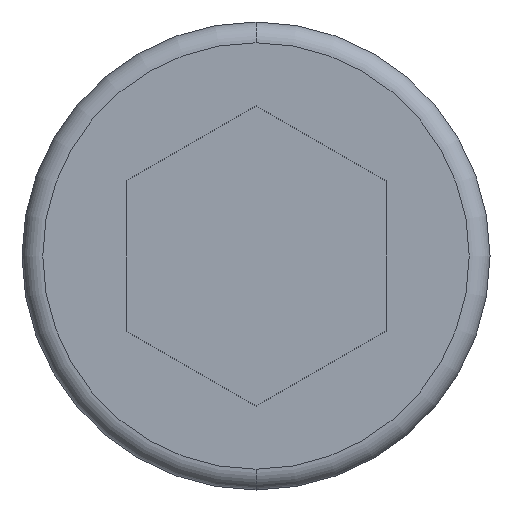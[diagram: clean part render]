
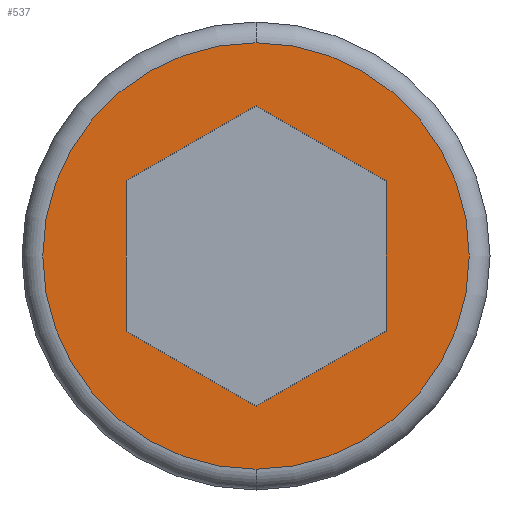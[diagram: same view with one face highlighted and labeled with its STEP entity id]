
A CAD part, front view. The second image highlights one B-rep face of the part: STEP entity #537.
In plain terms, the highlighted planar face has unit normal (0, -1, 0).
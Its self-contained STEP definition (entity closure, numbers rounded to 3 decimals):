
#11 = ORIENTED_EDGE ( 'NONE', *, *, #276, .T. ) ;
#18 = ORIENTED_EDGE ( 'NONE', *, *, #334, .F. ) ;
#36 = CARTESIAN_POINT ( 'NONE',  ( -5., -12., -2.887 ) ) ;
#76 = ORIENTED_EDGE ( 'NONE', *, *, #399, .F. ) ;
#85 = VERTEX_POINT ( 'NONE', #498 ) ;
#109 = CARTESIAN_POINT ( 'NONE',  ( 5., -12., 2.887 ) ) ;
#115 = AXIS2_PLACEMENT_3D ( 'NONE', #525, #761, #520 ) ;
#128 = VECTOR ( 'NONE', #707, 1000. ) ;
#137 = FACE_BOUND ( 'NONE', #403, .T. ) ;
#142 = VERTEX_POINT ( 'NONE', #444 ) ;
#152 = VERTEX_POINT ( 'NONE', #36 ) ;
#160 = VECTOR ( 'NONE', #591, 1000. ) ;
#169 = VECTOR ( 'NONE', #672, 1000. ) ;
#172 = VERTEX_POINT ( 'NONE', #109 ) ;
#174 = CARTESIAN_POINT ( 'NONE',  ( 0., -12., 0. ) ) ;
#190 = DIRECTION ( 'NONE',  ( 0., 0., -1. ) ) ;
#192 = VERTEX_POINT ( 'NONE', #269 ) ;
#193 = ORIENTED_EDGE ( 'NONE', *, *, #291, .F. ) ;
#228 = EDGE_CURVE ( 'NONE', #85, #192, #774, .T. ) ;
#232 = VERTEX_POINT ( 'NONE', #584 ) ;
#234 = CARTESIAN_POINT ( 'NONE',  ( 5., -12., -2.887 ) ) ;
#238 = DIRECTION ( 'NONE',  ( 0., 0., 1. ) ) ;
#249 = ORIENTED_EDGE ( 'NONE', *, *, #371, .F. ) ;
#269 = CARTESIAN_POINT ( 'NONE',  ( -5., -12., 2.887 ) ) ;
#272 = DIRECTION ( 'NONE',  ( 0., 0., -1. ) ) ;
#276 = EDGE_CURVE ( 'NONE', #142, #232, #530, .T. ) ;
#282 = VECTOR ( 'NONE', #510, 1000. ) ;
#286 = AXIS2_PLACEMENT_3D ( 'NONE', #705, #721, #272 ) ;
#291 = EDGE_CURVE ( 'NONE', #428, #172, #613, .T. ) ;
#293 = EDGE_LOOP ( 'NONE', ( #655, #11 ) ) ;
#334 = EDGE_CURVE ( 'NONE', #152, #543, #550, .T. ) ;
#353 = FACE_OUTER_BOUND ( 'NONE', #293, .T. ) ;
#371 = EDGE_CURVE ( 'NONE', #543, #428, #513, .T. ) ;
#385 = DIRECTION ( 'NONE',  ( -0.866, 0., 0.5 ) ) ;
#399 = EDGE_CURVE ( 'NONE', #172, #85, #680, .T. ) ;
#403 = EDGE_LOOP ( 'NONE', ( #193, #249, #18, #581, #607, #76 ) ) ;
#428 = VERTEX_POINT ( 'NONE', #509 ) ;
#441 = DIRECTION ( 'NONE',  ( 0., -1., 0. ) ) ;
#443 = CARTESIAN_POINT ( 'NONE',  ( 0., -12., -5.774 ) ) ;
#444 = CARTESIAN_POINT ( 'NONE',  ( 0., -12., 8.2 ) ) ;
#449 = CARTESIAN_POINT ( 'NONE',  ( 0., -12., 5.774 ) ) ;
#498 = CARTESIAN_POINT ( 'NONE',  ( 0., -12., 5.774 ) ) ;
#500 = VECTOR ( 'NONE', #385, 1000. ) ;
#509 = CARTESIAN_POINT ( 'NONE',  ( 5., -12., -2.887 ) ) ;
#510 = DIRECTION ( 'NONE',  ( -0.866, 0., -0.5 ) ) ;
#513 = LINE ( 'NONE', #659, #128 ) ;
#520 = DIRECTION ( 'NONE',  ( 0., 0., -1. ) ) ;
#525 = CARTESIAN_POINT ( 'NONE',  ( 0., -12., 0. ) ) ;
#527 = CARTESIAN_POINT ( 'NONE',  ( -5., -12., -2.887 ) ) ;
#530 = CIRCLE ( 'NONE', #115, 8.2 ) ;
#537 = ADVANCED_FACE ( 'NONE', ( #353, #137 ), #579, .T. ) ;
#543 = VERTEX_POINT ( 'NONE', #443 ) ;
#550 = LINE ( 'NONE', #527, #160 ) ;
#579 = PLANE ( 'NONE',  #286 ) ;
#581 = ORIENTED_EDGE ( 'NONE', *, *, #695, .F. ) ;
#584 = CARTESIAN_POINT ( 'NONE',  ( 0., -12., -8.2 ) ) ;
#587 = EDGE_CURVE ( 'NONE', #232, #142, #597, .T. ) ;
#591 = DIRECTION ( 'NONE',  ( 0.866, 0., -0.5 ) ) ;
#597 = CIRCLE ( 'NONE', #738, 8.2 ) ;
#607 = ORIENTED_EDGE ( 'NONE', *, *, #228, .F. ) ;
#612 = CARTESIAN_POINT ( 'NONE',  ( -5., -12., 2.887 ) ) ;
#613 = LINE ( 'NONE', #234, #764 ) ;
#638 = LINE ( 'NONE', #612, #169 ) ;
#655 = ORIENTED_EDGE ( 'NONE', *, *, #587, .T. ) ;
#659 = CARTESIAN_POINT ( 'NONE',  ( 0., -12., -5.774 ) ) ;
#672 = DIRECTION ( 'NONE',  ( 0., 0., -1. ) ) ;
#680 = LINE ( 'NONE', #728, #500 ) ;
#695 = EDGE_CURVE ( 'NONE', #192, #152, #638, .T. ) ;
#705 = CARTESIAN_POINT ( 'NONE',  ( 0., -12., 0. ) ) ;
#707 = DIRECTION ( 'NONE',  ( 0.866, 0., 0.5 ) ) ;
#721 = DIRECTION ( 'NONE',  ( 0., -1., 0. ) ) ;
#728 = CARTESIAN_POINT ( 'NONE',  ( 5., -12., 2.887 ) ) ;
#738 = AXIS2_PLACEMENT_3D ( 'NONE', #174, #441, #190 ) ;
#761 = DIRECTION ( 'NONE',  ( 0., -1., 0. ) ) ;
#764 = VECTOR ( 'NONE', #238, 1000. ) ;
#774 = LINE ( 'NONE', #449, #282 ) ;
